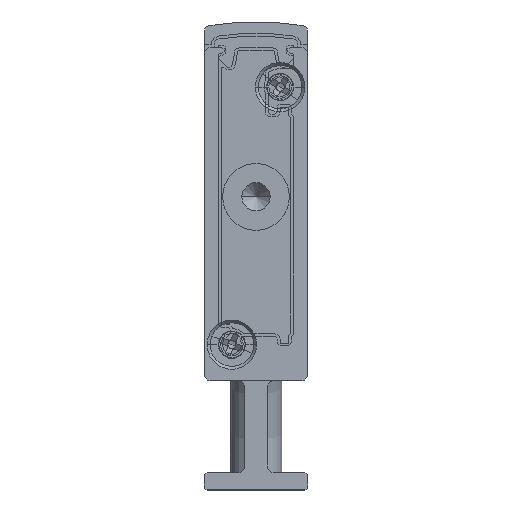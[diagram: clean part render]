
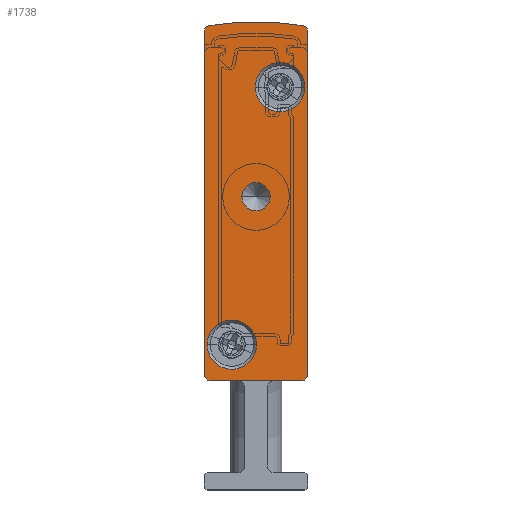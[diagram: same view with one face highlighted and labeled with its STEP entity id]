
A CAD part, front view. The second image highlights one B-rep face of the part: STEP entity #1738.
In plain terms, the highlighted planar face has unit normal (0, -1, 0).
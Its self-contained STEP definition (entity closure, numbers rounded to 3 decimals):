
#134 = VECTOR ( 'NONE', #7223, 1000. ) ;
#175 = DIRECTION ( 'NONE',  ( 1., 0., 0. ) ) ;
#441 = DIRECTION ( 'NONE',  ( -1., 0., 0. ) ) ;
#626 = ORIENTED_EDGE ( 'NONE', *, *, #3202, .F. ) ;
#763 = DIRECTION ( 'NONE',  ( 0., 0., -1. ) ) ;
#821 = CARTESIAN_POINT ( 'NONE',  ( 9., -2.5, 39.902 ) ) ;
#884 = VERTEX_POINT ( 'NONE', #14372 ) ;
#910 = CARTESIAN_POINT ( 'NONE',  ( 2.4, -2.5, 12.65 ) ) ;
#1180 = CARTESIAN_POINT ( 'NONE',  ( 0.5, -2.5, 9.5 ) ) ;
#1288 = AXIS2_PLACEMENT_3D ( 'NONE', #19358, #16284, #14944 ) ;
#1317 = EDGE_LOOP ( 'NONE', ( #17581, #8993 ) ) ;
#1623 = DIRECTION ( 'NONE',  ( 0., 1., 0. ) ) ;
#1649 = VERTEX_POINT ( 'NONE', #11825 ) ;
#1738 = ADVANCED_FACE ( 'NONE', ( #8887, #4135, #5555, #8419 ), #6057, .F. ) ;
#1776 = DIRECTION ( 'NONE',  ( 0., 1., 0. ) ) ;
#1904 = CARTESIAN_POINT ( 'NONE',  ( 0.5, -2.5, 10. ) ) ;
#1939 = CIRCLE ( 'NONE', #4225, 2.15 ) ;
#1965 = CARTESIAN_POINT ( 'NONE',  ( 0.5, -2.5, 9.5 ) ) ;
#2001 = ORIENTED_EDGE ( 'NONE', *, *, #10268, .F. ) ;
#2070 = VERTEX_POINT ( 'NONE', #6665 ) ;
#2420 = ORIENTED_EDGE ( 'NONE', *, *, #10224, .F. ) ;
#2881 = EDGE_CURVE ( 'NONE', #7356, #19493, #11654, .T. ) ;
#3184 = EDGE_CURVE ( 'NONE', #13093, #18744, #6797, .T. ) ;
#3202 = EDGE_CURVE ( 'NONE', #13813, #12733, #11064, .T. ) ;
#3499 = EDGE_CURVE ( 'NONE', #12733, #2070, #17898, .T. ) ;
#3872 = EDGE_CURVE ( 'NONE', #16234, #7356, #18102, .T. ) ;
#3935 = ORIENTED_EDGE ( 'NONE', *, *, #3499, .F. ) ;
#4135 = FACE_BOUND ( 'NONE', #7950, .T. ) ;
#4176 = AXIS2_PLACEMENT_3D ( 'NONE', #16175, #7153, #441 ) ;
#4225 = AXIS2_PLACEMENT_3D ( 'NONE', #910, #11529, #15930 ) ;
#4395 = ORIENTED_EDGE ( 'NONE', *, *, #3872, .F. ) ;
#4583 = CARTESIAN_POINT ( 'NONE',  ( 0.5, -2.5, 39.902 ) ) ;
#4630 = CARTESIAN_POINT ( 'NONE',  ( 8.5, -2.5, 39.902 ) ) ;
#4639 = EDGE_CURVE ( 'NONE', #17620, #12931, #1939, .T. ) ;
#5255 = AXIS2_PLACEMENT_3D ( 'NONE', #17347, #8127, #14440 ) ;
#5509 = AXIS2_PLACEMENT_3D ( 'NONE', #7791, #1776, #6744 ) ;
#5524 = CARTESIAN_POINT ( 'NONE',  ( 6.6, -2.5, 35.05 ) ) ;
#5555 = FACE_OUTER_BOUND ( 'NONE', #16258, .T. ) ;
#5580 = CARTESIAN_POINT ( 'NONE',  ( 9., -2.5, 39.902 ) ) ;
#5995 = DIRECTION ( 'NONE',  ( 0., 1., 0. ) ) ;
#5996 = VECTOR ( 'NONE', #763, 1000. ) ;
#6057 = PLANE ( 'NONE',  #19139 ) ;
#6260 = EDGE_CURVE ( 'NONE', #19493, #10510, #6344, .T. ) ;
#6264 = AXIS2_PLACEMENT_3D ( 'NONE', #16802, #18062, #175 ) ;
#6344 = LINE ( 'NONE', #1965, #19671 ) ;
#6665 = CARTESIAN_POINT ( 'NONE',  ( 0.408, -2.5, 40.393 ) ) ;
#6744 = DIRECTION ( 'NONE',  ( -1., 0., 0. ) ) ;
#6760 = VERTEX_POINT ( 'NONE', #9674 ) ;
#6797 = CIRCLE ( 'NONE', #1288, 1.25 ) ;
#7086 = DIRECTION ( 'NONE',  ( 1., 0., 0. ) ) ;
#7153 = DIRECTION ( 'NONE',  ( 0., 1., 0. ) ) ;
#7223 = DIRECTION ( 'NONE',  ( 0., 0., 1. ) ) ;
#7269 = CARTESIAN_POINT ( 'NONE',  ( 4.55, -2.5, 12.65 ) ) ;
#7285 = ORIENTED_EDGE ( 'NONE', *, *, #6260, .F. ) ;
#7356 = VERTEX_POINT ( 'NONE', #13454 ) ;
#7791 = CARTESIAN_POINT ( 'NONE',  ( 4.5, -2.5, 17.092 ) ) ;
#7950 = EDGE_LOOP ( 'NONE', ( #9135, #2001 ) ) ;
#8127 = DIRECTION ( 'NONE',  ( 0., -1., 0. ) ) ;
#8181 = EDGE_CURVE ( 'NONE', #10510, #13813, #16385, .T. ) ;
#8419 = FACE_BOUND ( 'NONE', #13579, .T. ) ;
#8511 = ORIENTED_EDGE ( 'NONE', *, *, #13726, .F. ) ;
#8530 = CARTESIAN_POINT ( 'NONE',  ( 4.5, -2.5, 25.5 ) ) ;
#8563 = CARTESIAN_POINT ( 'NONE',  ( 5.75, -2.5, 25.5 ) ) ;
#8611 = AXIS2_PLACEMENT_3D ( 'NONE', #4630, #1623, #19334 ) ;
#8725 = DIRECTION ( 'NONE',  ( -1., 0., 0. ) ) ;
#8862 = CARTESIAN_POINT ( 'NONE',  ( 3.25, -2.5, 25.5 ) ) ;
#8887 = FACE_BOUND ( 'NONE', #1317, .T. ) ;
#8993 = ORIENTED_EDGE ( 'NONE', *, *, #15159, .F. ) ;
#9135 = ORIENTED_EDGE ( 'NONE', *, *, #4639, .F. ) ;
#9225 = CARTESIAN_POINT ( 'NONE',  ( 0., -2.5, 10. ) ) ;
#9302 = DIRECTION ( 'NONE',  ( -1., 0., 0. ) ) ;
#9475 = DIRECTION ( 'NONE',  ( 0., 1., 0. ) ) ;
#9522 = CIRCLE ( 'NONE', #15345, 2.15 ) ;
#9674 = CARTESIAN_POINT ( 'NONE',  ( 8.592, -2.5, 40.393 ) ) ;
#10118 = AXIS2_PLACEMENT_3D ( 'NONE', #8530, #17547, #8725 ) ;
#10144 = DIRECTION ( 'NONE',  ( 0., -1., 0. ) ) ;
#10224 = EDGE_CURVE ( 'NONE', #2070, #6760, #12816, .T. ) ;
#10268 = EDGE_CURVE ( 'NONE', #12931, #17620, #16350, .T. ) ;
#10510 = VERTEX_POINT ( 'NONE', #1180 ) ;
#10624 = EDGE_CURVE ( 'NONE', #884, #1649, #10642, .T. ) ;
#10642 = CIRCLE ( 'NONE', #6264, 2.15 ) ;
#10788 = DIRECTION ( 'NONE',  ( -1., 0., 0. ) ) ;
#11064 = LINE ( 'NONE', #13451, #134 ) ;
#11155 = CARTESIAN_POINT ( 'NONE',  ( 8.5, -2.5, 10. ) ) ;
#11529 = DIRECTION ( 'NONE',  ( 0., -1., 0. ) ) ;
#11654 = CIRCLE ( 'NONE', #14853, 0.5 ) ;
#11825 = CARTESIAN_POINT ( 'NONE',  ( 4.45, -2.5, 35.05 ) ) ;
#11863 = CIRCLE ( 'NONE', #10118, 1.25 ) ;
#12311 = CARTESIAN_POINT ( 'NONE',  ( 0., -2.5, 39.902 ) ) ;
#12565 = DIRECTION ( 'NONE',  ( -1., 0., 0. ) ) ;
#12733 = VERTEX_POINT ( 'NONE', #12311 ) ;
#12816 = CIRCLE ( 'NONE', #5509, 23.658 ) ;
#12931 = VERTEX_POINT ( 'NONE', #16641 ) ;
#13093 = VERTEX_POINT ( 'NONE', #8862 ) ;
#13451 = CARTESIAN_POINT ( 'NONE',  ( 0., -2.5, 39.902 ) ) ;
#13454 = CARTESIAN_POINT ( 'NONE',  ( 9., -2.5, 10. ) ) ;
#13579 = EDGE_LOOP ( 'NONE', ( #17008, #18211 ) ) ;
#13726 = EDGE_CURVE ( 'NONE', #6760, #16234, #16553, .T. ) ;
#13813 = VERTEX_POINT ( 'NONE', #9225 ) ;
#14372 = CARTESIAN_POINT ( 'NONE',  ( 8.75, -2.5, 35.05 ) ) ;
#14440 = DIRECTION ( 'NONE',  ( 1., 0., 0. ) ) ;
#14853 = AXIS2_PLACEMENT_3D ( 'NONE', #11155, #9475, #17300 ) ;
#14944 = DIRECTION ( 'NONE',  ( -1., 0., 0. ) ) ;
#15159 = EDGE_CURVE ( 'NONE', #1649, #884, #9522, .T. ) ;
#15201 = AXIS2_PLACEMENT_3D ( 'NONE', #1904, #17266, #12565 ) ;
#15302 = CARTESIAN_POINT ( 'NONE',  ( 8.5, -2.5, 9.5 ) ) ;
#15345 = AXIS2_PLACEMENT_3D ( 'NONE', #5524, #10144, #7086 ) ;
#15930 = DIRECTION ( 'NONE',  ( 1., 0., 0. ) ) ;
#16175 = CARTESIAN_POINT ( 'NONE',  ( 0.5, -2.5, 39.902 ) ) ;
#16234 = VERTEX_POINT ( 'NONE', #5580 ) ;
#16258 = EDGE_LOOP ( 'NONE', ( #3935, #626, #19390, #7285, #18257, #4395, #8511, #2420 ) ) ;
#16284 = DIRECTION ( 'NONE',  ( 0., 1., 0. ) ) ;
#16350 = CIRCLE ( 'NONE', #5255, 2.15 ) ;
#16385 = CIRCLE ( 'NONE', #15201, 0.5 ) ;
#16553 = CIRCLE ( 'NONE', #8611, 0.5 ) ;
#16641 = CARTESIAN_POINT ( 'NONE',  ( 0.25, -2.5, 12.65 ) ) ;
#16802 = CARTESIAN_POINT ( 'NONE',  ( 6.6, -2.5, 35.05 ) ) ;
#17008 = ORIENTED_EDGE ( 'NONE', *, *, #3184, .T. ) ;
#17266 = DIRECTION ( 'NONE',  ( 0., 1., 0. ) ) ;
#17300 = DIRECTION ( 'NONE',  ( -1., 0., 0. ) ) ;
#17347 = CARTESIAN_POINT ( 'NONE',  ( 2.4, -2.5, 12.65 ) ) ;
#17486 = EDGE_CURVE ( 'NONE', #18744, #13093, #11863, .T. ) ;
#17547 = DIRECTION ( 'NONE',  ( 0., 1., 0. ) ) ;
#17581 = ORIENTED_EDGE ( 'NONE', *, *, #10624, .F. ) ;
#17620 = VERTEX_POINT ( 'NONE', #7269 ) ;
#17898 = CIRCLE ( 'NONE', #4176, 0.5 ) ;
#18062 = DIRECTION ( 'NONE',  ( 0., -1., 0. ) ) ;
#18102 = LINE ( 'NONE', #821, #5996 ) ;
#18211 = ORIENTED_EDGE ( 'NONE', *, *, #17486, .T. ) ;
#18257 = ORIENTED_EDGE ( 'NONE', *, *, #2881, .F. ) ;
#18744 = VERTEX_POINT ( 'NONE', #8563 ) ;
#19139 = AXIS2_PLACEMENT_3D ( 'NONE', #4583, #5995, #10788 ) ;
#19334 = DIRECTION ( 'NONE',  ( -1., 0., 0. ) ) ;
#19358 = CARTESIAN_POINT ( 'NONE',  ( 4.5, -2.5, 25.5 ) ) ;
#19390 = ORIENTED_EDGE ( 'NONE', *, *, #8181, .F. ) ;
#19493 = VERTEX_POINT ( 'NONE', #15302 ) ;
#19671 = VECTOR ( 'NONE', #9302, 1000. ) ;
